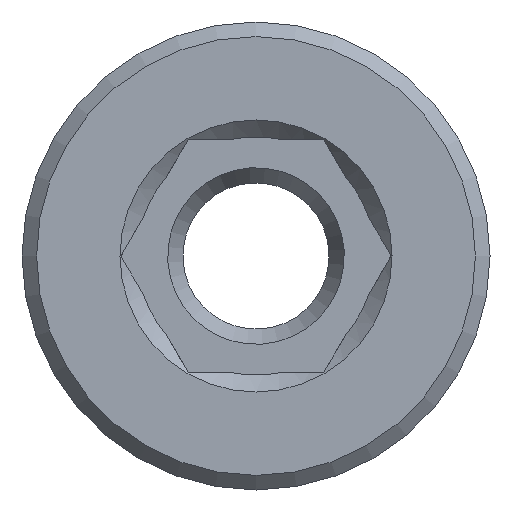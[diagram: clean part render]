
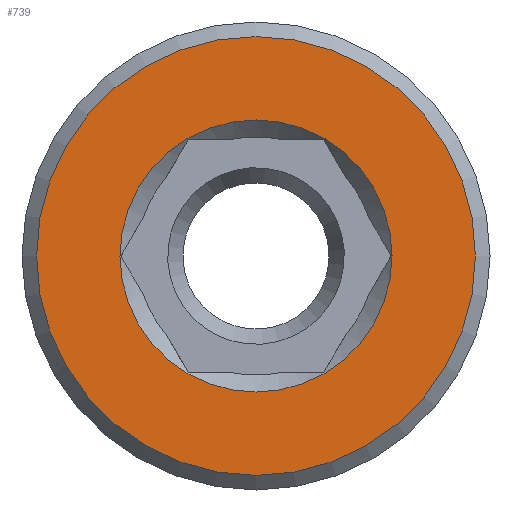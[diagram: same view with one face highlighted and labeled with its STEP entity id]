
A CAD part, front view. The second image highlights one B-rep face of the part: STEP entity #739.
In plain terms, the highlighted planar face has unit normal (0, -1, 0).
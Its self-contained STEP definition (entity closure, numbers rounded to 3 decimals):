
#17 = VERTEX_POINT ( 'NONE', #297 ) ;
#22 = AXIS2_PLACEMENT_3D ( 'NONE', #518, #832, #1207 ) ;
#26 = EDGE_LOOP ( 'NONE', ( #858 ) ) ;
#206 = DIRECTION ( 'NONE',  ( 0., 0., 1. ) ) ;
#297 = CARTESIAN_POINT ( 'NONE',  ( -4.65, 0., 0. ) ) ;
#518 = CARTESIAN_POINT ( 'NONE',  ( -2.55, 0., 0. ) ) ;
#619 = DIRECTION ( 'NONE',  ( 0., -1., 0. ) ) ;
#632 = FACE_BOUND ( 'NONE', #26, .T. ) ;
#739 = ADVANCED_FACE ( 'NONE', ( #1547, #632 ), #802, .F. ) ;
#753 = ORIENTED_EDGE ( 'NONE', *, *, #1095, .T. ) ;
#802 = PLANE ( 'NONE',  #22 ) ;
#806 = CARTESIAN_POINT ( 'NONE',  ( 0., 0., 0. ) ) ;
#832 = DIRECTION ( 'NONE',  ( 0., 1., 0. ) ) ;
#858 = ORIENTED_EDGE ( 'NONE', *, *, #1606, .T. ) ;
#916 = EDGE_LOOP ( 'NONE', ( #753 ) ) ;
#1095 = EDGE_CURVE ( 'NONE', #1672, #1672, #1335, .T. ) ;
#1157 = AXIS2_PLACEMENT_3D ( 'NONE', #1472, #619, #206 ) ;
#1207 = DIRECTION ( 'NONE',  ( 0., 0., 1. ) ) ;
#1219 = DIRECTION ( 'NONE',  ( -1., 0., 0. ) ) ;
#1335 = CIRCLE ( 'NONE', #1157, 7.5 ) ;
#1458 = AXIS2_PLACEMENT_3D ( 'NONE', #806, #1802, #1219 ) ;
#1472 = CARTESIAN_POINT ( 'NONE',  ( 0., 0., 0. ) ) ;
#1495 = CARTESIAN_POINT ( 'NONE',  ( 0., 0., 7.5 ) ) ;
#1547 = FACE_OUTER_BOUND ( 'NONE', #916, .T. ) ;
#1606 = EDGE_CURVE ( 'NONE', #17, #17, #1831, .T. ) ;
#1672 = VERTEX_POINT ( 'NONE', #1495 ) ;
#1802 = DIRECTION ( 'NONE',  ( 0., 1., 0. ) ) ;
#1831 = CIRCLE ( 'NONE', #1458, 4.65 ) ;
